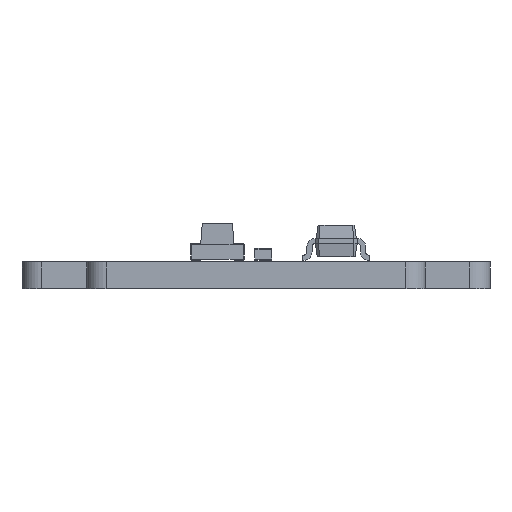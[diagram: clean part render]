
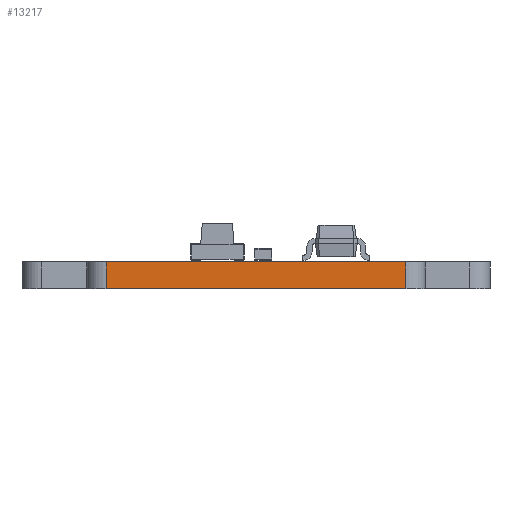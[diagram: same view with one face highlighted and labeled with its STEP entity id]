
A CAD part, left-side view. The second image highlights one B-rep face of the part: STEP entity #13217.
In plain terms, the highlighted planar face has unit normal (-1, 0, 0).
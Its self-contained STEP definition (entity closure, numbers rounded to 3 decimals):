
#11928 = PLANE('',#11929);
#11929 = AXIS2_PLACEMENT_3D('',#11930,#11931,#11932);
#11930 = CARTESIAN_POINT('',(151.874,-133.058,0.8));
#11931 = DIRECTION('',(0.,0.,1.));
#11932 = DIRECTION('',(1.,0.,-0.));
#11982 = PLANE('',#11983);
#11983 = AXIS2_PLACEMENT_3D('',#11984,#11985,#11986);
#11984 = CARTESIAN_POINT('',(151.874,-133.058,0.));
#11985 = DIRECTION('',(0.,0.,1.));
#11986 = DIRECTION('',(1.,0.,-0.));
#13107 = CYLINDRICAL_SURFACE('',#13108,0.584);
#13108 = AXIS2_PLACEMENT_3D('',#13109,#13110,#13111);
#13109 = CARTESIAN_POINT('',(133.68,-128.575,0.));
#13110 = DIRECTION('',(-0.,-0.,-1.));
#13111 = DIRECTION('',(1.,0.,-0.));
#13145 = VERTEX_POINT('',#13146);
#13146 = CARTESIAN_POINT('',(133.096,-128.575,0.8));
#13168 = EDGE_CURVE('',#13169,#13145,#13171,.T.);
#13169 = VERTEX_POINT('',#13170);
#13170 = CARTESIAN_POINT('',(133.096,-128.575,0.));
#13171 = SURFACE_CURVE('',#13172,(#13176,#13183),.PCURVE_S1.);
#13172 = LINE('',#13173,#13174);
#13173 = CARTESIAN_POINT('',(133.096,-128.575,0.));
#13174 = VECTOR('',#13175,1.);
#13175 = DIRECTION('',(0.,0.,1.));
#13176 = PCURVE('',#13107,#13177);
#13177 = DEFINITIONAL_REPRESENTATION('',(#13178),#13182);
#13178 = LINE('',#13179,#13180);
#13179 = CARTESIAN_POINT('',(-3.142,0.));
#13180 = VECTOR('',#13181,1.);
#13181 = DIRECTION('',(-0.,-1.));
#13182 = ( GEOMETRIC_REPRESENTATION_CONTEXT(2) 
PARAMETRIC_REPRESENTATION_CONTEXT() REPRESENTATION_CONTEXT('2D SPACE',''
  ) );
#13183 = PCURVE('',#13184,#13189);
#13184 = PLANE('',#13185);
#13185 = AXIS2_PLACEMENT_3D('',#13186,#13187,#13188);
#13186 = CARTESIAN_POINT('',(133.096,-128.575,0.));
#13187 = DIRECTION('',(1.,0.,-0.));
#13188 = DIRECTION('',(0.,-1.,0.));
#13189 = DEFINITIONAL_REPRESENTATION('',(#13190),#13194);
#13190 = LINE('',#13191,#13192);
#13191 = CARTESIAN_POINT('',(0.,0.));
#13192 = VECTOR('',#13193,1.);
#13193 = DIRECTION('',(0.,-1.));
#13194 = ( GEOMETRIC_REPRESENTATION_CONTEXT(2) 
PARAMETRIC_REPRESENTATION_CONTEXT() REPRESENTATION_CONTEXT('2D SPACE',''
  ) );
#13217 = ADVANCED_FACE('',(#13218),#13184,.F.);
#13218 = FACE_BOUND('',#13219,.F.);
#13219 = EDGE_LOOP('',(#13220,#13221,#13244,#13272));
#13220 = ORIENTED_EDGE('',*,*,#13168,.T.);
#13221 = ORIENTED_EDGE('',*,*,#13222,.T.);
#13222 = EDGE_CURVE('',#13145,#13223,#13225,.T.);
#13223 = VERTEX_POINT('',#13224);
#13224 = CARTESIAN_POINT('',(133.096,-137.543,0.8));
#13225 = SURFACE_CURVE('',#13226,(#13230,#13237),.PCURVE_S1.);
#13226 = LINE('',#13227,#13228);
#13227 = CARTESIAN_POINT('',(133.096,-128.575,0.8));
#13228 = VECTOR('',#13229,1.);
#13229 = DIRECTION('',(0.,-1.,0.));
#13230 = PCURVE('',#13184,#13231);
#13231 = DEFINITIONAL_REPRESENTATION('',(#13232),#13236);
#13232 = LINE('',#13233,#13234);
#13233 = CARTESIAN_POINT('',(0.,-0.8));
#13234 = VECTOR('',#13235,1.);
#13235 = DIRECTION('',(1.,0.));
#13236 = ( GEOMETRIC_REPRESENTATION_CONTEXT(2) 
PARAMETRIC_REPRESENTATION_CONTEXT() REPRESENTATION_CONTEXT('2D SPACE',''
  ) );
#13237 = PCURVE('',#11928,#13238);
#13238 = DEFINITIONAL_REPRESENTATION('',(#13239),#13243);
#13239 = LINE('',#13240,#13241);
#13240 = CARTESIAN_POINT('',(-18.778,4.483));
#13241 = VECTOR('',#13242,1.);
#13242 = DIRECTION('',(0.,-1.));
#13243 = ( GEOMETRIC_REPRESENTATION_CONTEXT(2) 
PARAMETRIC_REPRESENTATION_CONTEXT() REPRESENTATION_CONTEXT('2D SPACE',''
  ) );
#13244 = ORIENTED_EDGE('',*,*,#13245,.F.);
#13245 = EDGE_CURVE('',#13246,#13223,#13248,.T.);
#13246 = VERTEX_POINT('',#13247);
#13247 = CARTESIAN_POINT('',(133.096,-137.543,0.));
#13248 = SURFACE_CURVE('',#13249,(#13253,#13260),.PCURVE_S1.);
#13249 = LINE('',#13250,#13251);
#13250 = CARTESIAN_POINT('',(133.096,-137.543,0.));
#13251 = VECTOR('',#13252,1.);
#13252 = DIRECTION('',(0.,0.,1.));
#13253 = PCURVE('',#13184,#13254);
#13254 = DEFINITIONAL_REPRESENTATION('',(#13255),#13259);
#13255 = LINE('',#13256,#13257);
#13256 = CARTESIAN_POINT('',(8.968,0.));
#13257 = VECTOR('',#13258,1.);
#13258 = DIRECTION('',(0.,-1.));
#13259 = ( GEOMETRIC_REPRESENTATION_CONTEXT(2) 
PARAMETRIC_REPRESENTATION_CONTEXT() REPRESENTATION_CONTEXT('2D SPACE',''
  ) );
#13260 = PCURVE('',#13261,#13266);
#13261 = CYLINDRICAL_SURFACE('',#13262,0.584);
#13262 = AXIS2_PLACEMENT_3D('',#13263,#13264,#13265);
#13263 = CARTESIAN_POINT('',(133.68,-137.541,0.));
#13264 = DIRECTION('',(-0.,-0.,-1.));
#13265 = DIRECTION('',(1.,0.,-0.));
#13266 = DEFINITIONAL_REPRESENTATION('',(#13267),#13271);
#13267 = LINE('',#13268,#13269);
#13268 = CARTESIAN_POINT('',(-3.145,0.));
#13269 = VECTOR('',#13270,1.);
#13270 = DIRECTION('',(-0.,-1.));
#13271 = ( GEOMETRIC_REPRESENTATION_CONTEXT(2) 
PARAMETRIC_REPRESENTATION_CONTEXT() REPRESENTATION_CONTEXT('2D SPACE',''
  ) );
#13272 = ORIENTED_EDGE('',*,*,#13273,.F.);
#13273 = EDGE_CURVE('',#13169,#13246,#13274,.T.);
#13274 = SURFACE_CURVE('',#13275,(#13279,#13286),.PCURVE_S1.);
#13275 = LINE('',#13276,#13277);
#13276 = CARTESIAN_POINT('',(133.096,-128.575,0.));
#13277 = VECTOR('',#13278,1.);
#13278 = DIRECTION('',(0.,-1.,0.));
#13279 = PCURVE('',#13184,#13280);
#13280 = DEFINITIONAL_REPRESENTATION('',(#13281),#13285);
#13281 = LINE('',#13282,#13283);
#13282 = CARTESIAN_POINT('',(0.,0.));
#13283 = VECTOR('',#13284,1.);
#13284 = DIRECTION('',(1.,0.));
#13285 = ( GEOMETRIC_REPRESENTATION_CONTEXT(2) 
PARAMETRIC_REPRESENTATION_CONTEXT() REPRESENTATION_CONTEXT('2D SPACE',''
  ) );
#13286 = PCURVE('',#11982,#13287);
#13287 = DEFINITIONAL_REPRESENTATION('',(#13288),#13292);
#13288 = LINE('',#13289,#13290);
#13289 = CARTESIAN_POINT('',(-18.778,4.483));
#13290 = VECTOR('',#13291,1.);
#13291 = DIRECTION('',(0.,-1.));
#13292 = ( GEOMETRIC_REPRESENTATION_CONTEXT(2) 
PARAMETRIC_REPRESENTATION_CONTEXT() REPRESENTATION_CONTEXT('2D SPACE',''
  ) );
